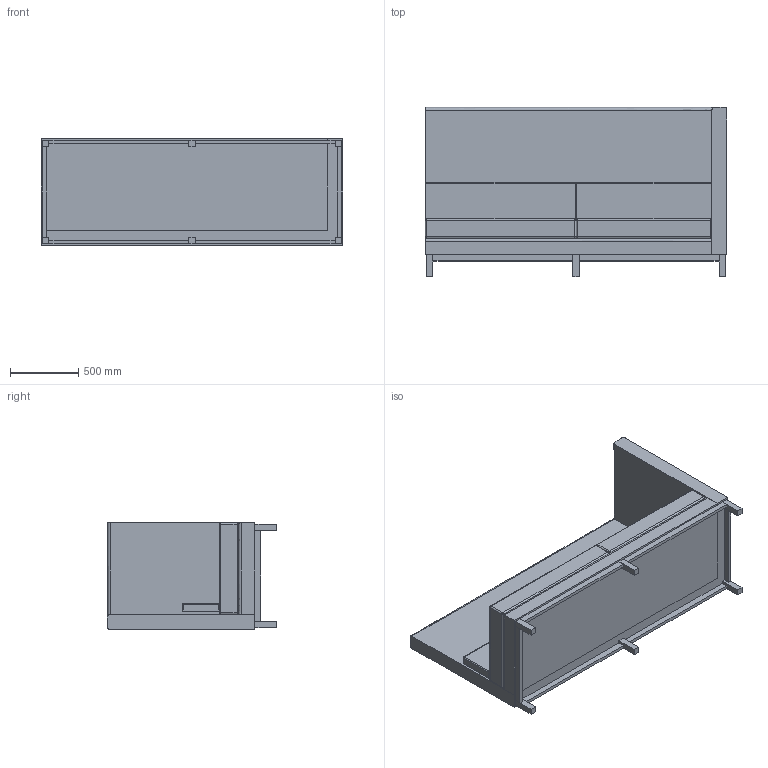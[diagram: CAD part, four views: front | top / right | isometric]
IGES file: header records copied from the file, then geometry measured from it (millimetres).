
Start section: SolidWorks IGES file using analytic representation for surfaces
Global section: file name: P:\3D CAD BLOCKS\ARTHUR CITYSCAPE\HB Plain Large LH\IGS\ART-HB-LARGE-LH-ART-CITY-LH.IGS; native system: SolidWorks 2012; preprocessor: SolidWorks 2012; author: tom; date: 160523.091654; units: millimetre
Bounding box: 2210 x 1240 x 780 mm (x, y, z)
Surface area: 16596013.5 mm2 (no closed solid volume)
Topology: 0 solids, 0 shells, 196 faces, 896 edges, 885 vertices
Faces by surface type: bspline 110, revolution 86
